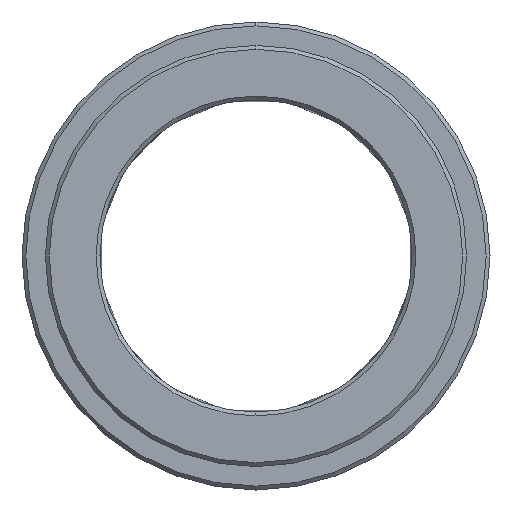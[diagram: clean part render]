
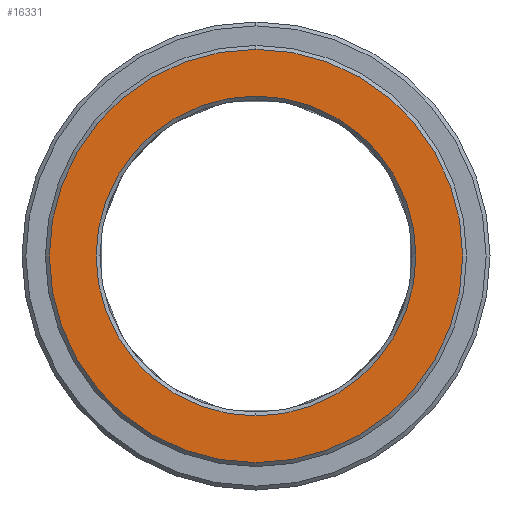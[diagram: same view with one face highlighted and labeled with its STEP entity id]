
A CAD part, left-side view. The second image highlights one B-rep face of the part: STEP entity #16331.
In plain terms, the highlighted planar face has unit normal (-1, 0, 0).
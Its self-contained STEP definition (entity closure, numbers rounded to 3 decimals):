
#11430=CARTESIAN_POINT('',(-10.,0.,
0.));
#11431=DIRECTION('',(1.,0.,0.));
#11432=DIRECTION('',(0.,0.,1.));
#11433=AXIS2_PLACEMENT_3D('',#11430,#11431,#11432);
#11435=CARTESIAN_POINT('',(-10.,0.,0.));
#11436=DIRECTION('',(1.,0.,0.));
#11437=DIRECTION('',(0.,0.,-1.));
#11438=AXIS2_PLACEMENT_3D('',#11435,#11436,#11437);
#11440=CARTESIAN_POINT('',(-10.,0.,0.));
#11441=DIRECTION('',(1.,0.,0.));
#11442=DIRECTION('',(0.,0.,1.));
#11443=AXIS2_PLACEMENT_3D('',#11440,#11441,#11442);
#11445=CARTESIAN_POINT('',(-10.,0.,
0.));
#11446=DIRECTION('',(1.,0.,0.));
#11447=DIRECTION('',(0.,0.,-1.));
#11448=AXIS2_PLACEMENT_3D('',#11445,#11446,#11447);
#12064=CARTESIAN_POINT('',(-10.,0.,20.5));
#12065=CARTESIAN_POINT('',(-10.,0.,
-20.5));
#12066=VERTEX_POINT('',#12064);
#12067=VERTEX_POINT('',#12065);
#12072=CARTESIAN_POINT('',(-10.,0.,26.5));
#12073=CARTESIAN_POINT('',(-10.,0.,
-26.5));
#12074=VERTEX_POINT('',#12072);
#12075=VERTEX_POINT('',#12073);
#16316=CARTESIAN_POINT('',(-10.,0.,0.));
#16317=DIRECTION('',(1.,0.,0.));
#16318=DIRECTION('',(0.,0.,1.));
#16319=AXIS2_PLACEMENT_3D('',#16316,#16317,#16318);
#16320=PLANE('',#16319);
#16321=ORIENTED_EDGE('',*,*,#16283,.T.);
#16322=ORIENTED_EDGE('',*,*,#16298,.T.);
#16323=EDGE_LOOP('',(#16321,#16322));
#16324=FACE_OUTER_BOUND('',#16323,.F.);
#16326=ORIENTED_EDGE('',*,*,#16325,.F.);
#16328=ORIENTED_EDGE('',*,*,#16327,.F.);
#16329=EDGE_LOOP('',(#16326,#16328));
#16330=FACE_BOUND('',#16329,.F.);
#16331=ADVANCED_FACE('',(#16324,#16330),#16320,.F.);
#11434=CIRCLE('',#11433,26.5);
#11439=CIRCLE('',#11438,26.5);
#11444=CIRCLE('',#11443,20.5);
#11449=CIRCLE('',#11448,20.5);
#16283=EDGE_CURVE('',#12074,#12075,#11434,.T.);
#16298=EDGE_CURVE('',#12075,#12074,#11439,.T.);
#16325=EDGE_CURVE('',#12066,#12067,#11444,.T.);
#16327=EDGE_CURVE('',#12067,#12066,#11449,.T.);
